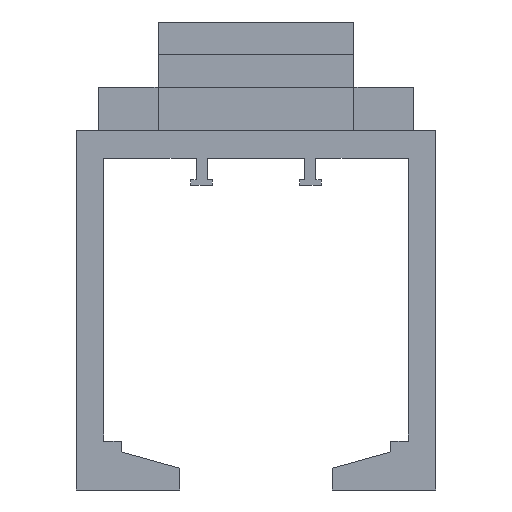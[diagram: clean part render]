
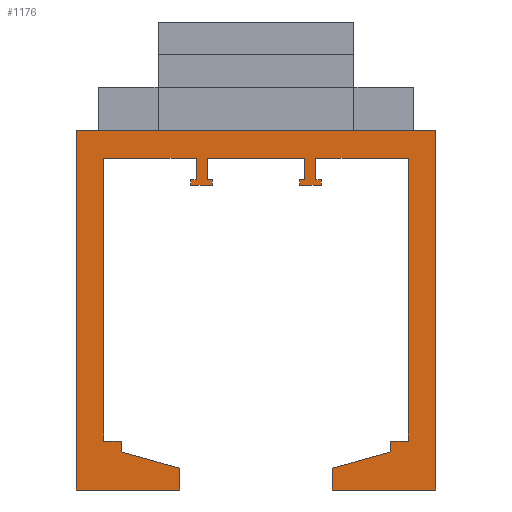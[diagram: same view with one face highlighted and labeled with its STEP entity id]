
A CAD part, left-side view. The second image highlights one B-rep face of the part: STEP entity #1176.
In plain terms, the highlighted planar face has unit normal (-1, 0, 0).
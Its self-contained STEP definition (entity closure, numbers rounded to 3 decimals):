
#1176=ADVANCED_FACE('',(#2116),#2117,.F.);
#2116=FACE_OUTER_BOUND('',#3341,.T.);
#2117=PLANE('',#3342);
#3341=EDGE_LOOP('',(#4686,#4687,#4688,#4689,#4690,#4691,#4692,#4693,#4694,#4695,#4696,#4697,#4698,#4699,#4700,#4701,#4702,#4703,#4704,#4705,#4706,#4707,#4708,#4709,#4710,#4711,#4712,#4713,#4714,#4715,#4716,#4717,#4718,#4719,#4720,#4721));
#3342=AXIS2_PLACEMENT_3D('',#4722,#4723,#4724);
#4686=ORIENTED_EDGE('',*,*,#5918,.T.);
#4687=ORIENTED_EDGE('',*,*,#5934,.T.);
#4688=ORIENTED_EDGE('',*,*,#5935,.T.);
#4689=ORIENTED_EDGE('',*,*,#5926,.T.);
#4690=ORIENTED_EDGE('',*,*,#5673,.F.);
#4691=ORIENTED_EDGE('',*,*,#5720,.T.);
#4692=ORIENTED_EDGE('',*,*,#5697,.T.);
#4693=ORIENTED_EDGE('',*,*,#5702,.F.);
#4694=ORIENTED_EDGE('',*,*,#5691,.F.);
#4695=ORIENTED_EDGE('',*,*,#5614,.T.);
#4696=ORIENTED_EDGE('',*,*,#5936,.T.);
#4697=ORIENTED_EDGE('',*,*,#5937,.T.);
#4698=ORIENTED_EDGE('',*,*,#5938,.T.);
#4699=ORIENTED_EDGE('',*,*,#5939,.T.);
#4700=ORIENTED_EDGE('',*,*,#5940,.T.);
#4701=ORIENTED_EDGE('',*,*,#5941,.T.);
#4702=ORIENTED_EDGE('',*,*,#5942,.F.);
#4703=ORIENTED_EDGE('',*,*,#5943,.T.);
#4704=ORIENTED_EDGE('',*,*,#5944,.T.);
#4705=ORIENTED_EDGE('',*,*,#5945,.T.);
#4706=ORIENTED_EDGE('',*,*,#5946,.T.);
#4707=ORIENTED_EDGE('',*,*,#5947,.T.);
#4708=ORIENTED_EDGE('',*,*,#5948,.T.);
#4709=ORIENTED_EDGE('',*,*,#5949,.T.);
#4710=ORIENTED_EDGE('',*,*,#5950,.F.);
#4711=ORIENTED_EDGE('',*,*,#5929,.F.);
#4712=ORIENTED_EDGE('',*,*,#5951,.F.);
#4713=ORIENTED_EDGE('',*,*,#5952,.T.);
#4714=ORIENTED_EDGE('',*,*,#5913,.T.);
#4715=ORIENTED_EDGE('',*,*,#5953,.F.);
#4716=ORIENTED_EDGE('',*,*,#5954,.F.);
#4717=ORIENTED_EDGE('',*,*,#5955,.F.);
#4718=ORIENTED_EDGE('',*,*,#5956,.T.);
#4719=ORIENTED_EDGE('',*,*,#5957,.T.);
#4720=ORIENTED_EDGE('',*,*,#5958,.T.);
#4721=ORIENTED_EDGE('',*,*,#5921,.T.);
#4722=CARTESIAN_POINT('',(0.0,5.0,-3.5));
#4723=DIRECTION('',(1.0,0.0,0.0));
#4724=DIRECTION('',(0.0,0.0,-1.0));
#5614=EDGE_CURVE('',#6485,#6483,#6486,.T.);
#5673=EDGE_CURVE('',#6573,#6575,#6576,.T.);
#5691=EDGE_CURVE('',#6485,#6603,#6604,.T.);
#5697=EDGE_CURVE('',#6609,#6611,#6613,.T.);
#5702=EDGE_CURVE('',#6603,#6611,#6620,.T.);
#5720=EDGE_CURVE('',#6573,#6609,#6642,.T.);
#5913=EDGE_CURVE('',#6926,#6924,#6927,.T.);
#5918=EDGE_CURVE('',#6935,#6933,#6936,.T.);
#5921=EDGE_CURVE('',#6939,#6935,#6940,.T.);
#5926=EDGE_CURVE('',#6947,#6575,#6948,.T.);
#5929=EDGE_CURVE('',#6951,#6952,#6953,.T.);
#5934=EDGE_CURVE('',#6933,#6960,#6961,.T.);
#5935=EDGE_CURVE('',#6960,#6947,#6962,.T.);
#5936=EDGE_CURVE('',#6483,#6963,#6964,.T.);
#5937=EDGE_CURVE('',#6963,#6965,#6966,.T.);
#5938=EDGE_CURVE('',#6965,#6967,#6968,.T.);
#5939=EDGE_CURVE('',#6967,#6969,#6970,.T.);
#5940=EDGE_CURVE('',#6969,#6971,#6972,.T.);
#5941=EDGE_CURVE('',#6971,#6973,#6974,.T.);
#5942=EDGE_CURVE('',#6975,#6973,#6976,.T.);
#5943=EDGE_CURVE('',#6975,#6977,#6978,.T.);
#5944=EDGE_CURVE('',#6977,#6979,#6980,.T.);
#5945=EDGE_CURVE('',#6979,#6981,#6982,.T.);
#5946=EDGE_CURVE('',#6981,#6983,#6984,.T.);
#5947=EDGE_CURVE('',#6983,#6985,#6986,.T.);
#5948=EDGE_CURVE('',#6985,#6987,#6988,.T.);
#5949=EDGE_CURVE('',#6987,#6989,#6990,.T.);
#5950=EDGE_CURVE('',#6952,#6989,#6991,.T.);
#5951=EDGE_CURVE('',#6992,#6951,#6993,.T.);
#5952=EDGE_CURVE('',#6992,#6926,#6994,.T.);
#5953=EDGE_CURVE('',#6995,#6924,#6996,.T.);
#5954=EDGE_CURVE('',#6997,#6995,#6998,.T.);
#5955=EDGE_CURVE('',#6999,#6997,#7000,.T.);
#5956=EDGE_CURVE('',#6999,#7001,#7002,.T.);
#5957=EDGE_CURVE('',#7001,#7003,#7004,.T.);
#5958=EDGE_CURVE('',#7003,#6939,#7005,.T.);
#6483=VERTEX_POINT('',#7314);
#6485=VERTEX_POINT('',#7317);
#6486=LINE('',#7318,#7319);
#6573=VERTEX_POINT('',#7431);
#6575=VERTEX_POINT('',#7434);
#6576=LINE('',#7435,#7436);
#6603=VERTEX_POINT('',#7471);
#6604=LINE('',#7472,#7473);
#6609=VERTEX_POINT('',#7479);
#6611=VERTEX_POINT('',#7481);
#6613=LINE('',#7483,#7484);
#6620=LINE('',#7492,#7493);
#6642=LINE('',#7521,#7522);
#6924=VERTEX_POINT('',#7941);
#6926=VERTEX_POINT('',#7944);
#6927=LINE('',#7945,#7946);
#6933=VERTEX_POINT('',#7954);
#6935=VERTEX_POINT('',#7957);
#6936=LINE('',#7958,#7959);
#6939=VERTEX_POINT('',#7963);
#6940=LINE('',#7964,#7965);
#6947=VERTEX_POINT('',#7975);
#6948=LINE('',#7976,#7977);
#6951=VERTEX_POINT('',#7981);
#6952=VERTEX_POINT('',#7982);
#6953=LINE('',#7983,#7984);
#6960=VERTEX_POINT('',#7994);
#6961=LINE('',#7995,#7996);
#6962=LINE('',#7997,#7998);
#6963=VERTEX_POINT('',#7999);
#6964=LINE('',#8000,#8001);
#6965=VERTEX_POINT('',#8002);
#6966=LINE('',#8003,#8004);
#6967=VERTEX_POINT('',#8005);
#6968=LINE('',#8006,#8007);
#6969=VERTEX_POINT('',#8008);
#6970=LINE('',#8009,#8010);
#6971=VERTEX_POINT('',#8011);
#6972=LINE('',#8012,#8013);
#6973=VERTEX_POINT('',#8014);
#6974=LINE('',#8015,#8016);
#6975=VERTEX_POINT('',#8017);
#6976=LINE('',#8018,#8019);
#6977=VERTEX_POINT('',#8020);
#6978=LINE('',#8021,#8022);
#6979=VERTEX_POINT('',#8023);
#6980=LINE('',#8024,#8025);
#6981=VERTEX_POINT('',#8026);
#6982=LINE('',#8027,#8028);
#6983=VERTEX_POINT('',#8029);
#6984=LINE('',#8030,#8031);
#6985=VERTEX_POINT('',#8032);
#6986=LINE('',#8033,#8034);
#6987=VERTEX_POINT('',#8035);
#6988=LINE('',#8036,#8037);
#6989=VERTEX_POINT('',#8038);
#6990=LINE('',#8039,#8040);
#6991=LINE('',#8041,#8042);
#6992=VERTEX_POINT('',#8043);
#6993=LINE('',#8044,#8045);
#6994=LINE('',#8046,#8047);
#6995=VERTEX_POINT('',#8048);
#6996=LINE('',#8049,#8050);
#6997=VERTEX_POINT('',#8051);
#6998=LINE('',#8052,#8053);
#6999=VERTEX_POINT('',#8054);
#7000=LINE('',#8055,#8056);
#7001=VERTEX_POINT('',#8057);
#7002=LINE('',#8058,#8059);
#7003=VERTEX_POINT('',#8060);
#7004=LINE('',#8061,#8062);
#7005=LINE('',#8063,#8064);
#7314=CARTESIAN_POINT('',(0.0,5.5,-4.5));
#7317=CARTESIAN_POINT('',(0.,5.5,-2.505));
#7318=CARTESIAN_POINT('',(0.0,5.5,-2.5));
#7319=VECTOR('',#8297,1.0);
#7431=CARTESIAN_POINT('',(0.0,5.5,-2.5));
#7434=CARTESIAN_POINT('',(0.0,14.0,-2.5));
#7435=CARTESIAN_POINT('',(0.0,-14.0,-2.5));
#7436=VECTOR('',#8378,1.0);
#7471=CARTESIAN_POINT('',(0.,5.505,-2.505));
#7472=CARTESIAN_POINT('',(0.,5.5,-2.505));
#7473=VECTOR('',#8399,1.0);
#7479=CARTESIAN_POINT('',(0.0,5.5,-2.503));
#7481=CARTESIAN_POINT('',(0.0,5.505,-2.503));
#7483=CARTESIAN_POINT('',(0.0,5.5,-2.503));
#7484=VECTOR('',#8410,1.0);
#7492=CARTESIAN_POINT('',(0.0,5.505,-2.505));
#7493=VECTOR('',#8418,1.0);
#7521=CARTESIAN_POINT('',(0.0,5.5,-2.5));
#7522=VECTOR('',#8437,1.0);
#7941=CARTESIAN_POINT('',(0.0,-7.0,-31.0));
#7944=CARTESIAN_POINT('',(0.0,-12.375,-29.5));
#7945=CARTESIAN_POINT('',(0.0,-4.993,-31.56));
#7946=VECTOR('',#8576,1.0);
#7954=CARTESIAN_POINT('',(0.0,12.375,-29.5));
#7957=CARTESIAN_POINT('',(0.0,7.0,-31.0));
#7958=CARTESIAN_POINT('',(0.0,12.32,-29.515));
#7959=VECTOR('',#8580,1.0);
#7963=CARTESIAN_POINT('',(0.0,7.0,-33.0));
#7964=CARTESIAN_POINT('',(0.0,7.0,-33.0));
#7965=VECTOR('',#8582,1.0);
#7975=CARTESIAN_POINT('',(0.0,14.0,-28.5));
#7976=CARTESIAN_POINT('',(0.0,14.0,-28.5));
#7977=VECTOR('',#8586,1.0);
#7981=CARTESIAN_POINT('',(0.0,-14.0,-28.5));
#7982=CARTESIAN_POINT('',(0.0,-14.0,-2.5));
#7983=CARTESIAN_POINT('',(0.0,-14.0,-28.5));
#7984=VECTOR('',#8588,1.0);
#7994=CARTESIAN_POINT('',(0.0,12.375,-28.5));
#7995=CARTESIAN_POINT('',(0.0,12.375,-29.26));
#7996=VECTOR('',#8592,1.0);
#7997=CARTESIAN_POINT('',(0.0,12.375,-28.5));
#7998=VECTOR('',#8593,1.0);
#7999=CARTESIAN_POINT('',(0.0,6.0,-4.5));
#8000=CARTESIAN_POINT('',(0.0,4.0,-4.5));
#8001=VECTOR('',#8594,1.0);
#8002=CARTESIAN_POINT('',(0.0,6.0,-5.0));
#8003=CARTESIAN_POINT('',(0.0,6.0,-4.5));
#8004=VECTOR('',#8595,1.0);
#8005=CARTESIAN_POINT('',(0.0,4.0,-5.0));
#8006=CARTESIAN_POINT('',(0.0,6.0,-5.0));
#8007=VECTOR('',#8596,1.0);
#8008=CARTESIAN_POINT('',(0.0,4.0,-4.5));
#8009=CARTESIAN_POINT('',(0.0,4.0,-5.0));
#8010=VECTOR('',#8597,1.0);
#8011=CARTESIAN_POINT('',(0.0,4.5,-4.5));
#8012=CARTESIAN_POINT('',(0.0,4.0,-4.5));
#8013=VECTOR('',#8598,1.0);
#8014=CARTESIAN_POINT('',(0.0,4.5,-2.5));
#8015=CARTESIAN_POINT('',(0.0,4.5,-4.5));
#8016=VECTOR('',#8599,1.0);
#8017=CARTESIAN_POINT('',(0.0,-4.5,-2.5));
#8018=CARTESIAN_POINT('',(0.0,-14.0,-2.5));
#8019=VECTOR('',#8600,1.0);
#8020=CARTESIAN_POINT('',(0.0,-4.5,-4.5));
#8021=CARTESIAN_POINT('',(0.0,-4.5,-2.5));
#8022=VECTOR('',#8601,1.0);
#8023=CARTESIAN_POINT('',(0.0,-4.0,-4.5));
#8024=CARTESIAN_POINT('',(0.0,-6.0,-4.5));
#8025=VECTOR('',#8602,1.0);
#8026=CARTESIAN_POINT('',(0.0,-4.0,-5.0));
#8027=CARTESIAN_POINT('',(0.0,-4.0,-4.5));
#8028=VECTOR('',#8603,1.0);
#8029=CARTESIAN_POINT('',(0.0,-6.0,-5.0));
#8030=CARTESIAN_POINT('',(0.0,-4.0,-5.0));
#8031=VECTOR('',#8604,1.0);
#8032=CARTESIAN_POINT('',(0.0,-6.0,-4.5));
#8033=CARTESIAN_POINT('',(0.0,-6.0,-5.0));
#8034=VECTOR('',#8605,1.0);
#8035=CARTESIAN_POINT('',(0.0,-5.5,-4.5));
#8036=CARTESIAN_POINT('',(0.0,-6.0,-4.5));
#8037=VECTOR('',#8606,1.0);
#8038=CARTESIAN_POINT('',(0.0,-5.5,-2.5));
#8039=CARTESIAN_POINT('',(0.0,-5.5,-4.5));
#8040=VECTOR('',#8607,1.0);
#8041=CARTESIAN_POINT('',(0.0,-14.0,-2.5));
#8042=VECTOR('',#8608,1.0);
#8043=CARTESIAN_POINT('',(0.0,-12.375,-28.5));
#8044=CARTESIAN_POINT('',(0.0,-12.375,-28.5));
#8045=VECTOR('',#8609,1.0);
#8046=CARTESIAN_POINT('',(0.0,-12.375,-16.5));
#8047=VECTOR('',#8610,1.0);
#8048=CARTESIAN_POINT('',(0.0,-7.0,-33.0));
#8049=CARTESIAN_POINT('',(0.0,-7.0,-33.0));
#8050=VECTOR('',#8611,1.0);
#8051=CARTESIAN_POINT('',(0.0,-16.5,-33.0));
#8052=CARTESIAN_POINT('',(0.0,-16.5,-33.0));
#8053=VECTOR('',#8612,1.0);
#8054=CARTESIAN_POINT('',(0.0,-16.5,0.0));
#8055=CARTESIAN_POINT('',(0.0,-16.5,0.0));
#8056=VECTOR('',#8613,1.0);
#8057=CARTESIAN_POINT('',(0.0,16.5,0.0));
#8058=CARTESIAN_POINT('',(0.0,0.0,0.0));
#8059=VECTOR('',#8614,1.0);
#8060=CARTESIAN_POINT('',(0.0,16.5,-33.0));
#8061=CARTESIAN_POINT('',(0.0,16.5,0.0));
#8062=VECTOR('',#8615,1.0);
#8063=CARTESIAN_POINT('',(0.0,16.5,-33.0));
#8064=VECTOR('',#8616,1.0);
#8297=DIRECTION('',(0.0,0.0,-1.0));
#8378=DIRECTION('',(0.0,1.0,0.0));
#8399=DIRECTION('',(0.0,1.0,0.));
#8410=DIRECTION('',(0.0,1.0,0.));
#8418=DIRECTION('',(0.,0.,1.0));
#8437=DIRECTION('',(0.0,0.0,-1.0));
#8576=DIRECTION('',(0.0,0.963,-0.269));
#8580=DIRECTION('',(0.0,0.963,0.269));
#8582=DIRECTION('',(0.0,0.0,1.0));
#8586=DIRECTION('',(0.0,0.0,1.0));
#8588=DIRECTION('',(0.0,0.0,1.0));
#8592=DIRECTION('',(0.0,0.0,1.0));
#8593=DIRECTION('',(0.0,1.0,0.0));
#8594=DIRECTION('',(0.0,1.0,0.0));
#8595=DIRECTION('',(0.0,0.0,-1.0));
#8596=DIRECTION('',(0.0,-1.0,0.0));
#8597=DIRECTION('',(0.0,0.0,1.0));
#8598=DIRECTION('',(0.0,1.0,0.0));
#8599=DIRECTION('',(0.0,0.0,1.0));
#8600=DIRECTION('',(0.0,1.0,0.0));
#8601=DIRECTION('',(0.0,0.0,-1.0));
#8602=DIRECTION('',(0.0,1.0,0.0));
#8603=DIRECTION('',(0.0,0.0,-1.0));
#8604=DIRECTION('',(0.0,-1.0,0.0));
#8605=DIRECTION('',(0.0,0.0,1.0));
#8606=DIRECTION('',(0.0,1.0,0.0));
#8607=DIRECTION('',(0.0,0.0,1.0));
#8608=DIRECTION('',(0.0,1.0,0.0));
#8609=DIRECTION('',(0.0,-1.0,0.0));
#8610=DIRECTION('',(0.0,0.0,-1.0));
#8611=DIRECTION('',(0.0,0.0,1.0));
#8612=DIRECTION('',(0.0,1.0,0.0));
#8613=DIRECTION('',(0.0,0.0,-1.0));
#8614=DIRECTION('',(0.0,1.0,0.0));
#8615=DIRECTION('',(0.0,0.0,-1.0));
#8616=DIRECTION('',(0.0,-1.0,0.0));
